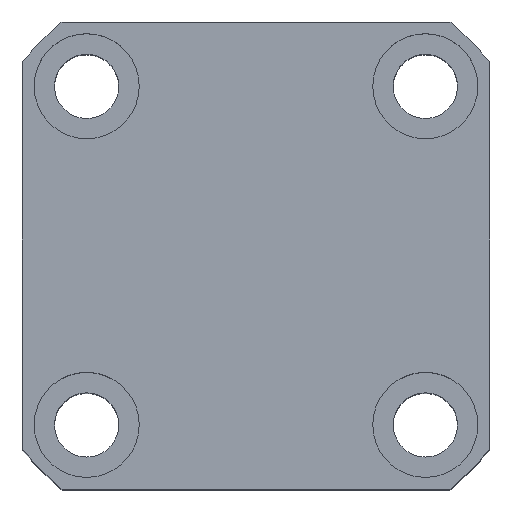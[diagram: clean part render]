
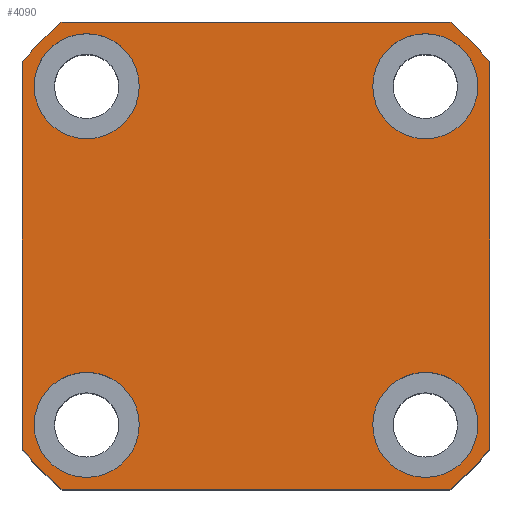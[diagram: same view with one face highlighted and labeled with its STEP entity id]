
A CAD part, top view. The second image highlights one B-rep face of the part: STEP entity #4090.
In plain terms, the highlighted planar face has unit normal (0, 0, 1).
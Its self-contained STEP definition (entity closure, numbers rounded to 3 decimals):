
#262 = CARTESIAN_POINT ( 'NONE',  ( 40., 33.226, 45. ) ) ;
#329 = VERTEX_POINT ( 'NONE', #262 ) ;
#383 = DIRECTION ( 'NONE',  ( 0., 0., 1. ) ) ;
#722 = CARTESIAN_POINT ( 'NONE',  ( -38., -29., 45. ) ) ;
#761 = CARTESIAN_POINT ( 'NONE',  ( 0., 0., 45. ) ) ;
#1110 = EDGE_LOOP ( 'NONE', ( #8484, #7323 ) ) ;
#1190 = EDGE_CURVE ( 'NONE', #3181, #8423, #17625, .T. ) ;
#1242 = VERTEX_POINT ( 'NONE', #4739 ) ;
#1679 = DIRECTION ( 'NONE',  ( 1., 0., 0. ) ) ;
#1739 = DIRECTION ( 'NONE',  ( 0., 0., 1. ) ) ;
#1856 = CARTESIAN_POINT ( 'NONE',  ( -33.226, -40., 45. ) ) ;
#2023 = DIRECTION ( 'NONE',  ( 0., 0., 1. ) ) ;
#2098 = DIRECTION ( 'NONE',  ( 0., 0., 1. ) ) ;
#2214 = EDGE_CURVE ( 'NONE', #11576, #17844, #12204, .T. ) ;
#2238 = DIRECTION ( 'NONE',  ( 1., 0., 0. ) ) ;
#2451 = EDGE_CURVE ( 'NONE', #10933, #329, #15412, .T. ) ;
#2617 = CARTESIAN_POINT ( 'NONE',  ( -20., -29., 45. ) ) ;
#2643 = ORIENTED_EDGE ( 'NONE', *, *, #1190, .F. ) ;
#2693 = CARTESIAN_POINT ( 'NONE',  ( 29., 29., 45. ) ) ;
#2808 = ORIENTED_EDGE ( 'NONE', *, *, #2451, .T. ) ;
#2947 = ORIENTED_EDGE ( 'NONE', *, *, #16158, .T. ) ;
#2952 = LINE ( 'NONE', #17848, #12600 ) ;
#3091 = DIRECTION ( 'NONE',  ( 0., -1., 0. ) ) ;
#3181 = VERTEX_POINT ( 'NONE', #5854 ) ;
#3184 = FACE_BOUND ( 'NONE', #6512, .T. ) ;
#3229 = CARTESIAN_POINT ( 'NONE',  ( 29., -29., 45. ) ) ;
#3287 = CARTESIAN_POINT ( 'NONE',  ( 38., -29., 45. ) ) ;
#3300 = DIRECTION ( 'NONE',  ( 1., 0., 0. ) ) ;
#3545 = DIRECTION ( 'NONE',  ( 1., 0., 0. ) ) ;
#3651 = CARTESIAN_POINT ( 'NONE',  ( -29., 29., 45. ) ) ;
#3687 = CARTESIAN_POINT ( 'NONE',  ( -29., 29., 45. ) ) ;
#3702 = AXIS2_PLACEMENT_3D ( 'NONE', #4005, #9541, #16105 ) ;
#3719 = CIRCLE ( 'NONE', #13325, 9. ) ;
#3966 = ORIENTED_EDGE ( 'NONE', *, *, #12731, .T. ) ;
#4005 = CARTESIAN_POINT ( 'NONE',  ( 29., 29., 45. ) ) ;
#4090 = ADVANCED_FACE ( 'NONE', ( #9072, #6476, #3184, #10398, #13013 ), #16071, .T. ) ;
#4292 = CIRCLE ( 'NONE', #3702, 9. ) ;
#4447 = CARTESIAN_POINT ( 'NONE',  ( 29., -29., 45. ) ) ;
#4495 = DIRECTION ( 'NONE',  ( 0., 0., 1. ) ) ;
#4500 = VECTOR ( 'NONE', #3300, 1000. ) ;
#4739 = CARTESIAN_POINT ( 'NONE',  ( 33.226, 40., 45. ) ) ;
#5084 = DIRECTION ( 'NONE',  ( 0., 0., 1. ) ) ;
#5196 = CIRCLE ( 'NONE', #17869, 52. ) ;
#5253 = AXIS2_PLACEMENT_3D ( 'NONE', #16179, #14810, #9121 ) ;
#5292 = EDGE_CURVE ( 'NONE', #16249, #11576, #16272, .T. ) ;
#5473 = DIRECTION ( 'NONE',  ( 0., 0., 1. ) ) ;
#5623 = VERTEX_POINT ( 'NONE', #7848 ) ;
#5854 = CARTESIAN_POINT ( 'NONE',  ( 20., 29., 45. ) ) ;
#6015 = CARTESIAN_POINT ( 'NONE',  ( -40., -33.226, 45. ) ) ;
#6194 = AXIS2_PLACEMENT_3D ( 'NONE', #3229, #17297, #8758 ) ;
#6476 = FACE_BOUND ( 'NONE', #9063, .T. ) ;
#6512 = EDGE_LOOP ( 'NONE', ( #10855, #11185 ) ) ;
#6662 = AXIS2_PLACEMENT_3D ( 'NONE', #16583, #16521, #8251 ) ;
#6668 = EDGE_CURVE ( 'NONE', #13880, #14671, #18086, .T. ) ;
#6729 = ORIENTED_EDGE ( 'NONE', *, *, #8511, .T. ) ;
#7236 = CARTESIAN_POINT ( 'NONE',  ( -40., 33.226, 45. ) ) ;
#7249 = CARTESIAN_POINT ( 'NONE',  ( -29., -29., 45. ) ) ;
#7323 = ORIENTED_EDGE ( 'NONE', *, *, #6668, .F. ) ;
#7390 = CIRCLE ( 'NONE', #5253, 52. ) ;
#7514 = CARTESIAN_POINT ( 'NONE',  ( 20., -29., 45. ) ) ;
#7701 = AXIS2_PLACEMENT_3D ( 'NONE', #7249, #383, #12928 ) ;
#7848 = CARTESIAN_POINT ( 'NONE',  ( -33.226, 40., 45. ) ) ;
#8002 = DIRECTION ( 'NONE',  ( 1., 0., 0. ) ) ;
#8057 = EDGE_CURVE ( 'NONE', #8423, #3181, #4292, .T. ) ;
#8077 = EDGE_LOOP ( 'NONE', ( #10610, #2643 ) ) ;
#8200 = DIRECTION ( 'NONE',  ( 1., 0., 0. ) ) ;
#8232 = DIRECTION ( 'NONE',  ( 0., 0., 1. ) ) ;
#8251 = DIRECTION ( 'NONE',  ( 1., 0., 0. ) ) ;
#8333 = VERTEX_POINT ( 'NONE', #8836 ) ;
#8423 = VERTEX_POINT ( 'NONE', #14779 ) ;
#8484 = ORIENTED_EDGE ( 'NONE', *, *, #15296, .F. ) ;
#8511 = EDGE_CURVE ( 'NONE', #1242, #5623, #2952, .T. ) ;
#8534 = AXIS2_PLACEMENT_3D ( 'NONE', #2693, #8232, #12303 ) ;
#8691 = DIRECTION ( 'NONE',  ( 1., 0., 0. ) ) ;
#8758 = DIRECTION ( 'NONE',  ( 1., 0., 0. ) ) ;
#8836 = CARTESIAN_POINT ( 'NONE',  ( -38., 29., 45. ) ) ;
#9063 = EDGE_LOOP ( 'NONE', ( #12659, #14969 ) ) ;
#9072 = FACE_BOUND ( 'NONE', #1110, .T. ) ;
#9121 = DIRECTION ( 'NONE',  ( 1., 0., 0. ) ) ;
#9315 = CIRCLE ( 'NONE', #6194, 9. ) ;
#9541 = DIRECTION ( 'NONE',  ( 0., 0., 1. ) ) ;
#9588 = CARTESIAN_POINT ( 'NONE',  ( 40., -33.226, 45. ) ) ;
#9715 = ORIENTED_EDGE ( 'NONE', *, *, #5292, .T. ) ;
#9742 = DIRECTION ( 'NONE',  ( -1., 0., 0. ) ) ;
#9956 = VERTEX_POINT ( 'NONE', #11884 ) ;
#10106 = CARTESIAN_POINT ( 'NONE',  ( -20., 29., 45. ) ) ;
#10278 = CIRCLE ( 'NONE', #15654, 9. ) ;
#10310 = AXIS2_PLACEMENT_3D ( 'NONE', #16907, #4495, #8691 ) ;
#10377 = VECTOR ( 'NONE', #3091, 1000. ) ;
#10398 = FACE_BOUND ( 'NONE', #8077, .T. ) ;
#10480 = CARTESIAN_POINT ( 'NONE',  ( 0., 0., 45. ) ) ;
#10610 = ORIENTED_EDGE ( 'NONE', *, *, #8057, .F. ) ;
#10855 = ORIENTED_EDGE ( 'NONE', *, *, #11684, .F. ) ;
#10933 = VERTEX_POINT ( 'NONE', #9588 ) ;
#10956 = CARTESIAN_POINT ( 'NONE',  ( 0., 0., 45. ) ) ;
#11185 = ORIENTED_EDGE ( 'NONE', *, *, #18093, .F. ) ;
#11395 = ORIENTED_EDGE ( 'NONE', *, *, #12869, .T. ) ;
#11576 = VERTEX_POINT ( 'NONE', #6015 ) ;
#11684 = EDGE_CURVE ( 'NONE', #17343, #8333, #3719, .T. ) ;
#11691 = CARTESIAN_POINT ( 'NONE',  ( -33.226, -40., 45. ) ) ;
#11884 = CARTESIAN_POINT ( 'NONE',  ( 33.226, -40., 45. ) ) ;
#11909 = DIRECTION ( 'NONE',  ( 0., 0., 1. ) ) ;
#11989 = CIRCLE ( 'NONE', #17604, 52. ) ;
#12204 = CIRCLE ( 'NONE', #10310, 52. ) ;
#12303 = DIRECTION ( 'NONE',  ( 1., 0., 0. ) ) ;
#12511 = EDGE_CURVE ( 'NONE', #13965, #14298, #17426, .T. ) ;
#12600 = VECTOR ( 'NONE', #9742, 1000. ) ;
#12613 = VECTOR ( 'NONE', #16422, 1000. ) ;
#12659 = ORIENTED_EDGE ( 'NONE', *, *, #13700, .F. ) ;
#12731 = EDGE_CURVE ( 'NONE', #329, #1242, #7390, .T. ) ;
#12770 = AXIS2_PLACEMENT_3D ( 'NONE', #761, #5084, #2238 ) ;
#12823 = EDGE_LOOP ( 'NONE', ( #3966, #6729, #14263, #9715, #17723, #2947, #11395, #2808 ) ) ;
#12869 = EDGE_CURVE ( 'NONE', #9956, #10933, #11989, .T. ) ;
#12928 = DIRECTION ( 'NONE',  ( 1., 0., 0. ) ) ;
#13013 = FACE_OUTER_BOUND ( 'NONE', #12823, .T. ) ;
#13325 = AXIS2_PLACEMENT_3D ( 'NONE', #3687, #11909, #8002 ) ;
#13520 = CIRCLE ( 'NONE', #6662, 9. ) ;
#13700 = EDGE_CURVE ( 'NONE', #14298, #13965, #13520, .T. ) ;
#13880 = VERTEX_POINT ( 'NONE', #7514 ) ;
#13965 = VERTEX_POINT ( 'NONE', #722 ) ;
#14263 = ORIENTED_EDGE ( 'NONE', *, *, #16450, .T. ) ;
#14298 = VERTEX_POINT ( 'NONE', #2617 ) ;
#14671 = VERTEX_POINT ( 'NONE', #3287 ) ;
#14779 = CARTESIAN_POINT ( 'NONE',  ( 38., 29., 45. ) ) ;
#14810 = DIRECTION ( 'NONE',  ( 0., 0., 1. ) ) ;
#14969 = ORIENTED_EDGE ( 'NONE', *, *, #12511, .F. ) ;
#15296 = EDGE_CURVE ( 'NONE', #14671, #13880, #9315, .T. ) ;
#15412 = LINE ( 'NONE', #16645, #12613 ) ;
#15654 = AXIS2_PLACEMENT_3D ( 'NONE', #3651, #2023, #16001 ) ;
#15828 = CARTESIAN_POINT ( 'NONE',  ( -40., 33.226, 45. ) ) ;
#16001 = DIRECTION ( 'NONE',  ( 1., 0., 0. ) ) ;
#16071 = PLANE ( 'NONE',  #12770 ) ;
#16105 = DIRECTION ( 'NONE',  ( 1., 0., 0. ) ) ;
#16158 = EDGE_CURVE ( 'NONE', #17844, #9956, #16912, .T. ) ;
#16179 = CARTESIAN_POINT ( 'NONE',  ( 0., 0., 45. ) ) ;
#16249 = VERTEX_POINT ( 'NONE', #15828 ) ;
#16272 = LINE ( 'NONE', #7236, #10377 ) ;
#16422 = DIRECTION ( 'NONE',  ( 0., 1., 0. ) ) ;
#16450 = EDGE_CURVE ( 'NONE', #5623, #16249, #5196, .T. ) ;
#16521 = DIRECTION ( 'NONE',  ( 0., 0., 1. ) ) ;
#16583 = CARTESIAN_POINT ( 'NONE',  ( -29., -29., 45. ) ) ;
#16645 = CARTESIAN_POINT ( 'NONE',  ( 40., 33.226, 45. ) ) ;
#16845 = AXIS2_PLACEMENT_3D ( 'NONE', #4447, #1739, #1679 ) ;
#16907 = CARTESIAN_POINT ( 'NONE',  ( 0., 0., 45. ) ) ;
#16912 = LINE ( 'NONE', #1856, #4500 ) ;
#17297 = DIRECTION ( 'NONE',  ( 0., 0., 1. ) ) ;
#17343 = VERTEX_POINT ( 'NONE', #10106 ) ;
#17426 = CIRCLE ( 'NONE', #7701, 9. ) ;
#17604 = AXIS2_PLACEMENT_3D ( 'NONE', #10956, #5473, #8200 ) ;
#17625 = CIRCLE ( 'NONE', #8534, 9. ) ;
#17723 = ORIENTED_EDGE ( 'NONE', *, *, #2214, .T. ) ;
#17844 = VERTEX_POINT ( 'NONE', #11691 ) ;
#17848 = CARTESIAN_POINT ( 'NONE',  ( -33.226, 40., 45. ) ) ;
#17869 = AXIS2_PLACEMENT_3D ( 'NONE', #10480, #2098, #3545 ) ;
#18086 = CIRCLE ( 'NONE', #16845, 9. ) ;
#18093 = EDGE_CURVE ( 'NONE', #8333, #17343, #10278, .T. ) ;
